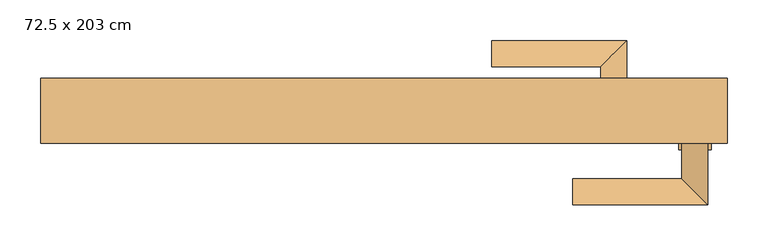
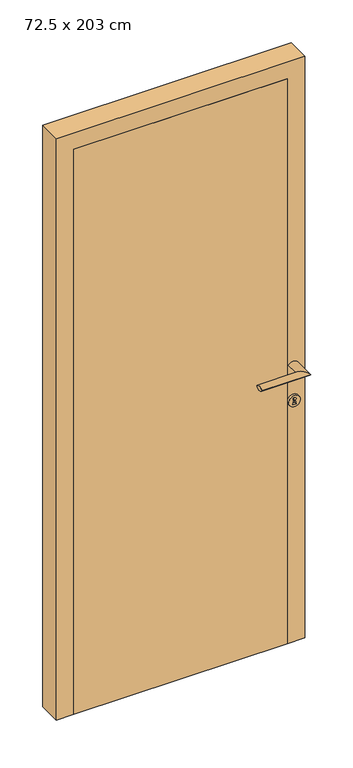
"""IFC4 building model written with IfcOpenShell, lengths in millimetres: door geometry, Puerta abatible ciega con ventilación : 72.5 x 203 cm."""

import ifcopenshell
import ifcopenshell.guid

model = None  # the IFC model being written
_history = None  # IfcOwnerHistory: only IFC2X3 demands one
_inside = {}  # id of a spatial element -> (the spatial element, [elements in it])
_under = {}  # id of a project, library or spatial element -> (it, [spatial elements below it])
_declared = {}  # id of a project -> (the project, [libraries it declares])
_typed = {}  # id of a type object -> (the type object, [elements of that type])
_made_of = {}  # id of a material, layer set ... -> (it, [elements and type objects made of it])


def new_model(schema):
    """Start an empty IFC model of exactly this schema.

    Asked for "IFC4X3", IfcOpenShell would pick the latest addendum, in which some entities
    have other attributes; the version numbers below select the first issue.
    IFC2X3 requires an IfcOwnerHistory on every rooted entity: one is made here for all.
    """
    global model, _history
    if schema == "IFC4X3":
        model = ifcopenshell.file(schema_version=(4, 3, 0, 0))
    else:
        model = ifcopenshell.file(schema=schema)
    _inside.clear()
    _under.clear()
    _declared.clear()
    _typed.clear()
    _made_of.clear()
    _history = None
    if model.schema == "IFC2X3":
        org = make("IfcOrganization", Name="unknown")
        user = make(
            "IfcPersonAndOrganization",
            ThePerson=make("IfcPerson", FamilyName="unknown"),
            TheOrganization=org,
        )
        app = make(
            "IfcApplication",
            ApplicationDeveloper=org,
            Version="unknown",
            ApplicationFullName="unknown",
            ApplicationIdentifier="unknown",
        )
        _history = make(
            "IfcOwnerHistory",
            OwningUser=user,
            OwningApplication=app,
            ChangeAction="ADDED",
            CreationDate=0,
        )
    return model


def make(cls, **values):
    """One entity of the class cls with the attributes given. An attribute that is None is left unset."""
    return model.create_entity(
        cls, **{name: value for name, value in values.items() if value is not None}
    )


def rooted(cls, **values):
    """An entity with a GlobalId (a new one), such as an element, a storey or a relation."""
    return make(cls, GlobalId=ifcopenshell.guid.new(), OwnerHistory=_history, **values)


def si_unit(unit_type, name, prefix=None):
    """IfcSIUnit, for example si_unit("LENGTHUNIT", "METRE", prefix="MILLI")."""
    return make("IfcSIUnit", UnitType=unit_type, Prefix=prefix, Name=name)


def assignment(units):
    """IfcUnitAssignment: the units of a project."""
    return None if units is None else make("IfcUnitAssignment", Units=units)


def point(xyz):
    """IfcCartesianPoint."""
    return None if xyz is None else make("IfcCartesianPoint", Coordinates=xyz)


def direction(xyz):
    """IfcDirection."""
    return None if xyz is None else make("IfcDirection", DirectionRatios=xyz)


def frame(location, z_axis=None, x_axis=None):
    """IfcAxis2Placement3D, a coordinate frame: its origin and axes. An axis left out is left unset."""
    return make(
        "IfcAxis2Placement3D",
        Location=point(location),
        Axis=direction(z_axis),
        RefDirection=direction(x_axis),
    )


def frame_2d(location, x_axis=None):
    """IfcAxis2Placement2D, a coordinate frame in the plane: its origin and x axis."""
    return make(
        "IfcAxis2Placement2D", Location=point(location), RefDirection=direction(x_axis)
    )


def origin():
    """The frame at (0, 0, 0) with its axes left unset."""
    return frame((0.0, 0.0, 0.0))


def origin_with_axes():
    """The frame at (0, 0, 0) with the z axis (0, 0, 1) and the x axis (1, 0, 0) written out."""
    return frame((0.0, 0.0, 0.0), z_axis=(0.0, 0.0, 1.0), x_axis=(1.0, 0.0, 0.0))


def place(relative_to, where):
    """IfcLocalPlacement: puts the frame where relative to a parent placement (None: the world)."""
    return make(
        "IfcLocalPlacement", PlacementRelTo=relative_to, RelativePlacement=where
    )


def context(
    kind, dimensions, precision=None, world=None, true_north=None, identifier=None
):
    """IfcGeometricRepresentationContext, for example the 3D "Model" context."""
    return make(
        "IfcGeometricRepresentationContext",
        ContextIdentifier=identifier,
        ContextType=kind,
        CoordinateSpaceDimension=dimensions,
        Precision=precision,
        WorldCoordinateSystem=world,
        TrueNorth=true_north,
    )


def project(units=None, contexts=None):
    """IfcProject with its units and contexts."""
    return rooted(
        "IfcProject",
        Name="project",
        RepresentationContexts=contexts,
        UnitsInContext=assignment(units),
    )


def spatial(cls, under=None, at=None, **own):
    """A site, building, storey or space (cls), placed at a placement, below another one or the project."""
    s = rooted(cls, ObjectPlacement=at, **own)
    if under is not None:
        _under.setdefault(under.id(), (under, []))[1].append(s)
    return s


def polyline(points):
    """IfcPolyline through the points."""
    return make("IfcPolyline", Points=[point(p) for p in points])


def circle_curve(where, radius):
    """IfcCircle in the frame where."""
    return make("IfcCircle", Position=where, Radius=radius)


def ellipse_curve(where, semi_axis1, semi_axis2):
    """IfcEllipse in the frame where."""
    return make(
        "IfcEllipse", Position=where, SemiAxis1=semi_axis1, SemiAxis2=semi_axis2
    )


def trimmed(basis, trim1, trim2, sense, master):
    """IfcTrimmedCurve: the piece of a basis curve between two trims."""
    return make(
        "IfcTrimmedCurve",
        BasisCurve=basis,
        Trim1=trim1,
        Trim2=trim2,
        SenseAgreement=sense,
        MasterRepresentation=master,
    )


def segment(curve, same_sense, transition):
    """IfcCompositeCurveSegment."""
    return make(
        "IfcCompositeCurveSegment",
        Transition=transition,
        SameSense=same_sense,
        ParentCurve=curve,
    )


def composite_curve(segments, self_intersect=None):
    """IfcCompositeCurve: segments joined end to end."""
    return make("IfcCompositeCurve", Segments=segments, SelfIntersect=self_intersect)


def outline(outer, holes=None, kind="AREA"):
    """IfcArbitraryClosedProfileDef: a profile drawn as a closed curve; with holes, ...WithVoids."""
    if holes is None:
        return make("IfcArbitraryClosedProfileDef", ProfileType=kind, OuterCurve=outer)
    return make(
        "IfcArbitraryProfileDefWithVoids",
        ProfileType=kind,
        OuterCurve=outer,
        InnerCurves=holes,
    )


def extrude(swept, where, along, depth):
    """IfcExtrudedAreaSolid: the profile swept, set in the frame where, extruded along a direction by depth."""
    return make(
        "IfcExtrudedAreaSolid",
        SweptArea=swept,
        Position=where,
        ExtrudedDirection=direction(along),
        Depth=depth,
    )


def faces_of(points, faces, orient=None, outer=None):
    """IfcFace entities. A face is a list of loops; a loop is a list of indices into points, from 0.

    orient and outer hold one flag for each loop. By default every Orientation is true, the
    first loop of a face is its IfcFaceOuterBound and the others are IfcFaceBound.
    """
    made = []
    for i, loops in enumerate(faces):
        bounds = []
        for j, loop in enumerate(loops):
            is_outer = j == 0 if outer is None else outer[i][j]
            bounds.append(
                make(
                    "IfcFaceOuterBound" if is_outer else "IfcFaceBound",
                    Bound=make("IfcPolyLoop", Polygon=[points[k] for k in loop]),
                    Orientation=True if orient is None else orient[i][j],
                )
            )
        made.append(make("IfcFace", Bounds=bounds))
    return made


def faceted_brep(points, faces, orient=None, outer=None, voids=None):
    """IfcFacetedBrep: a solid bounded by flat faces; with voids (closed shells), ...WithVoids."""
    shared = [point(p) for p in points]
    hull = make("IfcClosedShell", CfsFaces=faces_of(shared, faces, orient, outer))
    if voids is None:
        return make("IfcFacetedBrep", Outer=hull)
    return make(
        "IfcFacetedBrepWithVoids",
        Outer=hull,
        Voids=[
            make(cls, CfsFaces=faces_of(shared, fs, o, b)) for cls, fs, o, b in voids
        ],
    )


def shape(context_of_items, identifier, shape_type, items):
    """IfcShapeRepresentation: the items that make up one representation, for example the "Body"."""
    return make(
        "IfcShapeRepresentation",
        ContextOfItems=context_of_items,
        RepresentationIdentifier=identifier,
        RepresentationType=shape_type,
        Items=items,
    )


def source(mapping_origin, context_of_items, identifier, shape_type, items):
    """IfcRepresentationMap: a shape defined once, which mapped items show again and again."""
    return make(
        "IfcRepresentationMap",
        MappingOrigin=mapping_origin,
        MappedRepresentation=shape(context_of_items, identifier, shape_type, items),
    )


def transform(
    local_origin,
    x_axis=None,
    y_axis=None,
    z_axis=None,
    scale=None,
    scale2=None,
    scale3=None,
    uniform=True,
):
    """IfcCartesianTransformationOperator3D, or its non-uniform kind. x_axis, y_axis, z_axis: its Axis1, 2, 3."""
    if uniform:
        return make(
            "IfcCartesianTransformationOperator3D",
            Axis1=direction(x_axis),
            Axis2=direction(y_axis),
            LocalOrigin=point(local_origin),
            Scale=scale,
            Axis3=direction(z_axis),
        )
    return make(
        "IfcCartesianTransformationOperator3DnonUniform",
        Axis1=direction(x_axis),
        Axis2=direction(y_axis),
        LocalOrigin=point(local_origin),
        Scale=scale,
        Axis3=direction(z_axis),
        Scale2=scale2,
        Scale3=scale3,
    )


def mapped(mapping_source, mapping_target):
    """IfcMappedItem: shows the shape of a source again, moved by a transform."""
    return make(
        "IfcMappedItem", MappingSource=mapping_source, MappingTarget=mapping_target
    )


def made_of(thing, what):
    """Note that an element or type object is made of a material, layer set ...; save() writes the relation."""
    if what is not None:
        _made_of.setdefault(what.id(), (what, []))[1].append(thing)
    return thing


def element(
    cls,
    number,
    at=None,
    inside=None,
    cuts=None,
    type_object=None,
    material=None,
    context=None,
    identifier="Body",
    shape_type=None,
    held_by="IfcProductDefinitionShape",
    body=None,
    shapes=None,
    **own,
):
    """One element of the class cls, such as IfcWall. Its Tag is "e" and its number.

    at: its placement. inside: the storey or other place that contains it. cuts: it is an
    opening in that element (IfcRelVoidsElement). A single representation is given by context,
    identifier, shape_type and body (its items); several are given by shapes. held_by: the class
    of the entity that holds the representations. save() writes the other relations.
    """
    e = rooted(cls, Tag="e%d" % number, ObjectPlacement=at, **own)
    if body is not None:
        shapes = [shape(context, identifier, shape_type, body)]
    if shapes is not None:
        e.Representation = make(held_by, Representations=shapes)
    if inside is not None:
        _inside.setdefault(inside.id(), (inside, []))[1].append(e)
    if cuts is not None:
        rooted(
            "IfcRelVoidsElement", RelatingBuildingElement=cuts, RelatedOpeningElement=e
        )
    if type_object is not None:
        _typed.setdefault(type_object.id(), (type_object, []))[1].append(e)
    return made_of(e, material)


def aggregate(whole, parts):
    """IfcRelAggregates: a whole, such as a stair, and the parts it consists of."""
    return rooted("IfcRelAggregates", RelatingObject=whole, RelatedObjects=parts)


def save(model, path):
    """Write the relations noted so far, then the file.

    IfcRelAggregates (storeys below a building ...), IfcRelContainedInSpatialStructure (elements
    in a storey), IfcRelDefinesByType, IfcRelAssociatesMaterial and IfcRelDeclares: one each for
    every whole, place, type object, material and project.
    """
    for whole, parts in _under.values():
        aggregate(whole, parts)
    for where, things in _inside.values():
        rooted(
            "IfcRelContainedInSpatialStructure",
            RelatedElements=things,
            RelatingStructure=where,
        )
    for kind, things in _typed.values():
        rooted("IfcRelDefinesByType", RelatedObjects=things, RelatingType=kind)
    for what, things in _made_of.values():
        rooted("IfcRelAssociatesMaterial", RelatedObjects=things, RelatingMaterial=what)
    for by, libraries in _declared.values():
        rooted("IfcRelDeclares", RelatingContext=by, RelatedDefinitions=libraries)
    model.write(path)


def plane_surface(at):
    """IfcPlane: the flat surface through the origin of the frame at, square to its z axis."""
    return make("IfcPlane", Position=at)


def cylinder_surface(at, radius):
    """IfcCylindricalSurface: all points at the distance radius from the z axis of the frame at."""
    return make("IfcCylindricalSurface", Position=at, Radius=radius)


def advanced_brep(points, edges, surfaces, faces):
    """IfcAdvancedBrep: a solid bounded by faces that lie on surfaces and meet in shared edges.

    An edge is (start, end): straight between two places in points (the first is 0);
    or (start, end, curve); or (start, end, curve, False) where it runs against its curve.
    A face is (place in surfaces, loops), or (place, loops, False) where it looks against
    its surface's normal. A loop lists edges by number (the first is 1), with a minus sign
    where the edge is run from its end to its start. The first loop is the outer one.
    """
    corners = [point(p) for p in points]
    vertices = [make("IfcVertexPoint", VertexGeometry=c) for c in corners]
    made = []
    for start, end, *more in edges:
        made.append(
            make(
                "IfcEdgeCurve",
                EdgeStart=vertices[start],
                EdgeEnd=vertices[end],
                EdgeGeometry=more[0] if more else make("IfcPolyline", Points=[corners[start], corners[end]]),
                SameSense=more[1] if len(more) > 1 else True,
            )
        )
    hull = []
    for where, loops, *sense in faces:
        bounds = []
        for j, loop in enumerate(loops):
            ring = [make("IfcOrientedEdge", EdgeElement=made[abs(k) - 1], Orientation=k > 0) for k in loop]
            bounds.append(
                make(
                    "IfcFaceOuterBound" if j == 0 else "IfcFaceBound",
                    Bound=make("IfcEdgeLoop", EdgeList=ring),
                    Orientation=True,
                )
            )
        hull.append(make("IfcAdvancedFace", Bounds=bounds, FaceSurface=surfaces[where], SameSense=sense[0] if sense else True))
    return make("IfcAdvancedBrep", Outer=make("IfcClosedShell", CfsFaces=hull))


def door_72_5_x_203_cm_b813763c(model_context):
    return source(origin(), model_context, "Body", "SolidModel", [
        extrude(outline(composite_curve([segment(trimmed(circle_curve(frame_2d((869.9969135, 382.5)), 20.0), [point((869.9969135, 402.5))], [point((869.9969135, 362.5))], False, "CARTESIAN"), True, "CONTINUOUS"), segment(trimmed(circle_curve(frame_2d((869.9969135, 382.5)), 20.0), [point((869.9969135, 362.5))], [point((869.9969135, 402.5))], False, "CARTESIAN"), True, "CONTINUOUS")], self_intersect=False), holes=[composite_curve([segment(trimmed(circle_curve(frame_2d((877.2843462, 382.5)), 5.0), [point((872.8227542, 380.2429672))], [point((872.8227542, 384.7570328))], True, "CARTESIAN"), True, "CONTINUOUS"), segment(polyline([(872.8227542, 384.7570328), (858.2683183, 388.3858612), (858.2683183, 376.6141388), (872.8227542, 380.2429672)]), True, "CONTINUOUS")], self_intersect=False)]), frame((0.0, -48.0, 0.0), z_axis=(0.0, 1.0, 0.0), x_axis=(0.0, 0.0, 1.0)), (0.0, 0.0, 1.0), 8.0),
        advanced_brep(
        [(366.5, -40.0, 1000.0), (398.5, -40.0, 1000.0), (398.5, -116.0, 1000.0), (366.5, -84.0, 1000.0), (232.5, -84.0, 1000.0), (232.5, -116.0, 1000.0)],
        [
            (0, 1, circle_curve(frame((382.5, -40.0, 988.1967254), z_axis=(0.0, 1.0, 0.0), x_axis=(1.0, 0.0, 0.0)), 19.8825877)),
            (1, 0, circle_curve(frame((382.5, -40.0, 1011.8032746), z_axis=(0.0, 1.0, 0.0), x_axis=(1.0, 0.0, 0.0)), 19.8825877)),
            (1, 2),
            (2, 3, ellipse_curve(frame((382.5, -100.0, 1011.8032746), z_axis=(0.7071067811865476, 0.7071067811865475, 0.0), x_axis=(-0.7071067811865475, 0.7071067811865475, 0.0)), 28.1182251, 19.8825877)),
            (3, 0),
            (3, 2, ellipse_curve(frame((382.5, -100.0, 988.1967254), z_axis=(0.7071067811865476, 0.7071067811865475, 0.0), x_axis=(-0.7071067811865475, 0.7071067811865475, 0.0)), 28.1182251, 19.8825877)),
            (4, 5, circle_curve(frame((232.5, -100.0, 1011.8032746), z_axis=(-1.0, 0.0, 0.0), x_axis=(0.0, -1.0, 0.0)), 19.8825877)),
            (5, 4, circle_curve(frame((232.5, -100.0, 988.1967254), z_axis=(-1.0, 0.0, 0.0), x_axis=(0.0, -1.0, 0.0)), 19.8825877)),
            (2, 5),
            (4, 3),
        ],
        [
            plane_surface(frame((382.5, -40.0, 1000.0), z_axis=(0.0, 1.0, 0.0), x_axis=(0.0, 0.0, -1.0))),
            cylinder_surface(frame((382.5, -40.0, 1011.8032746), z_axis=(0.0, 1.0, 0.0), x_axis=(1.0, 0.0, 0.0)), 19.8825877),
            cylinder_surface(frame((382.5, -40.0, 988.1967254), z_axis=(0.0, 1.0, 0.0), x_axis=(1.0, 0.0, 0.0)), 19.8825877),
            plane_surface(frame((232.5, -100.0, 1000.0), z_axis=(-1.0, 0.0, 0.0), x_axis=(0.0, 0.0, -1.0))),
            cylinder_surface(frame((382.5, -100.0, 1011.8032746), z_axis=(1.0, 0.0, 0.0), x_axis=(0.0, -1.0, 0.0)), 19.8825877),
            cylinder_surface(frame((382.5, -100.0, 988.1967254), z_axis=(1.0, 0.0, 0.0), x_axis=(0.0, -1.0, 0.0)), 19.8825877),
        ],
        [
            (0, [[1, 2]]),
            (1, [[3, 4, 5, -2]]),
            (2, [[-5, 6, -3, -1]]),
            (3, [[7, 8]]),
            (4, [[9, -7, 10, -4]]),
            (5, [[-10, -8, -9, -6]]),
        ],
    ),
        extrude(outline(composite_curve([segment(trimmed(circle_curve(frame_2d((869.9969135, 282.5)), 20.0), [point((869.9969135, 262.5))], [point((869.9969135, 302.5))], False, "CARTESIAN"), True, "CONTINUOUS"), segment(trimmed(circle_curve(frame_2d((869.9969135, 282.5)), 20.0), [point((869.9969135, 302.5))], [point((869.9969135, 262.5))], False, "CARTESIAN"), True, "CONTINUOUS")], self_intersect=False), holes=[composite_curve([segment(polyline([(858.2683183, 288.3858612), (858.2683183, 276.6141388), (872.8227542, 280.2429672)]), True, "CONTINUOUS"), segment(trimmed(circle_curve(frame_2d((877.2843462, 282.5)), 5.0), [point((872.8227542, 280.2429672))], [point((872.8227542, 284.7570328))], True, "CARTESIAN"), True, "CONTINUOUS"), segment(polyline([(872.8227542, 284.7570328), (858.2683183, 288.3858612)]), True, "CONTINUOUS")], self_intersect=False)]), frame((0.0, 10.0, 0.0), z_axis=(0.0, 1.0, 0.0), x_axis=(0.0, 0.0, 1.0)), (0.0, 0.0, 1.0), 8.0),
        advanced_brep(
        [(298.5, 10.0, 1000.0), (266.5, 10.0, 1000.0), (266.5, 54.0, 1000.0), (298.5, 86.0, 1000.0), (132.5, 86.0, 1000.0), (132.5, 54.0, 1000.0)],
        [
            (0, 1, circle_curve(frame((282.5, 10.0, 988.1967254), z_axis=(0.0, -1.0, 0.0), x_axis=(-1.0, 0.0, 0.0)), 19.8825877)),
            (1, 0, circle_curve(frame((282.5, 10.0, 1011.8032746), z_axis=(0.0, -1.0, 0.0), x_axis=(-1.0, 0.0, 0.0)), 19.8825877)),
            (1, 2),
            (2, 3, ellipse_curve(frame((282.5, 70.0, 1011.8032746), z_axis=(0.7071067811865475, -0.7071067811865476, 0.0), x_axis=(-0.7071067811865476, -0.7071067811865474, 0.0)), 28.1182251, 19.8825877)),
            (3, 0),
            (3, 2, ellipse_curve(frame((282.5, 70.0, 988.1967254), z_axis=(0.7071067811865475, -0.7071067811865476, 0.0), x_axis=(-0.7071067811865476, -0.7071067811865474, 0.0)), 28.1182251, 19.8825877)),
            (4, 5, circle_curve(frame((132.5, 70.0, 1011.8032746), z_axis=(-1.0, 0.0, 0.0), x_axis=(0.0, -1.0, 0.0)), 19.8825877)),
            (5, 4, circle_curve(frame((132.5, 70.0, 988.1967254), z_axis=(-1.0, 0.0, 0.0), x_axis=(0.0, -1.0, 0.0)), 19.8825877)),
            (2, 5),
            (4, 3),
        ],
        [
            plane_surface(frame((282.5, 10.0, 1000.0), z_axis=(0.0, -1.0, 0.0), x_axis=(0.0, 0.0, -1.0))),
            cylinder_surface(frame((282.5, 10.0, 1011.8032746), z_axis=(0.0, -1.0, 0.0), x_axis=(-1.0, 0.0, 0.0)), 19.8825877),
            cylinder_surface(frame((282.5, 10.0, 988.1967254), z_axis=(0.0, -1.0, 0.0), x_axis=(-1.0, 0.0, 0.0)), 19.8825877),
            plane_surface(frame((132.5, 70.0, 1000.0), z_axis=(-1.0, 0.0, 0.0), x_axis=(0.0, 0.0, -1.0))),
            cylinder_surface(frame((282.5, 70.0, 1011.8032746), z_axis=(1.0, 0.0, 0.0), x_axis=(0.0, -1.0, 0.0)), 19.8825877),
            cylinder_surface(frame((282.5, 70.0, 988.1967254), z_axis=(1.0, 0.0, 0.0), x_axis=(0.0, -1.0, 0.0)), 19.8825877),
        ],
        [
            (0, [[1, 2]]),
            (1, [[3, 4, 5, -2]]),
            (2, [[-5, 6, -3, -1]]),
            (3, [[7, 8]]),
            (4, [[9, -7, 10, -4]]),
            (5, [[-10, -8, -9, -6]]),
        ],
    ),
        extrude(outline(polyline([(362.5, -40.0), (-362.5, -40.0), (-362.5, 10.0), (362.5, 10.0), (362.5, -40.0)])), origin_with_axes(), (0.0, 0.0, 1.0), 2030.0),
        faceted_brep([(422.5, 40.0, 0.0), (422.5, -40.0, 0.0), (362.5, -40.0, 0.0), (362.5, 10.0, 0.0), (347.5, 10.0, 0.0), (347.5, 40.0, 0.0), (347.5, 40.0, 2015.0), (-347.5, 40.0, 2015.0), (-347.5, 40.0, 0.0), (-422.5, 40.0, 0.0), (-422.5, 40.0, 2090.0), (422.5, 40.0, 2090.0), (347.5, 10.0, 2015.0), (362.5, 10.0, 2030.0), (-362.5, 10.0, 2030.0), (-362.5, 10.0, 0.0), (-347.5, 10.0, 0.0), (-347.5, 10.0, 2015.0), (362.5, -40.0, 2030.0), (422.5, -40.0, 2090.0), (-422.5, -40.0, 2090.0), (-422.5, -40.0, 0.0), (-362.5, -40.0, 0.0), (-362.5, -40.0, 2030.0)], [[[0, 1, 2, 3, 4, 5]], [[5, 6, 7, 8, 9, 10, 11, 0]], [[4, 12, 6, 5]], [[3, 13, 14, 15, 16, 17, 12, 4]], [[2, 18, 13, 3]], [[1, 19, 20, 21, 22, 23, 18, 2]], [[0, 11, 19, 1]], [[10, 9, 21, 20]], [[9, 8, 16, 15, 22, 21]], [[17, 16, 8, 7]], [[23, 22, 15, 14]], [[12, 17, 7, 6]], [[18, 23, 14, 13]], [[11, 10, 20, 19]]]),
    ])


if __name__ == "__main__":
    model = new_model("IFC4")
    model_context = context("Model", 3, world=origin())
    ifc_project = project(units=[si_unit("LENGTHUNIT", "METRE", prefix="MILLI")], contexts=[model_context])
    site = spatial("IfcSite", under=ifc_project)
    building = spatial("IfcBuilding", under=site)
    placement = place(None, origin())
    door_72_5_x_203_cm_shape = door_72_5_x_203_cm_b813763c(model_context)
    element("IfcDoor", 1, ObjectType="Puerta abatible ciega con ventilación : 72.5 x 203 cm", at=placement, inside=building, context=model_context, shape_type="MappedRepresentation", body=[
        mapped(door_72_5_x_203_cm_shape, transform((0.0, 0.0, 0.0), x_axis=(1.0, 0.0, 0.0), y_axis=(0.0, 1.0, 0.0), z_axis=(0.0, 0.0, 1.0))),
    ])
    save(model, "model.ifc")
